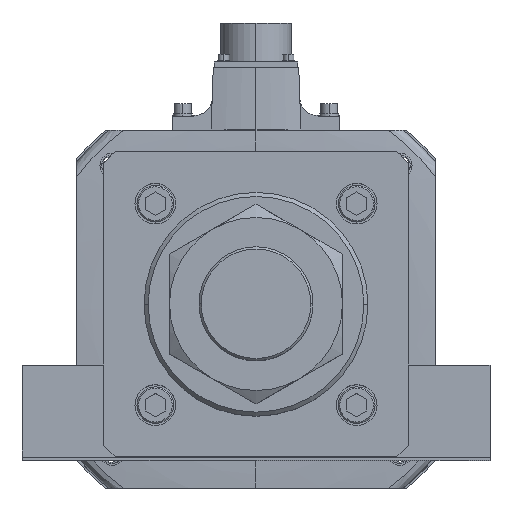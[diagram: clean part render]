
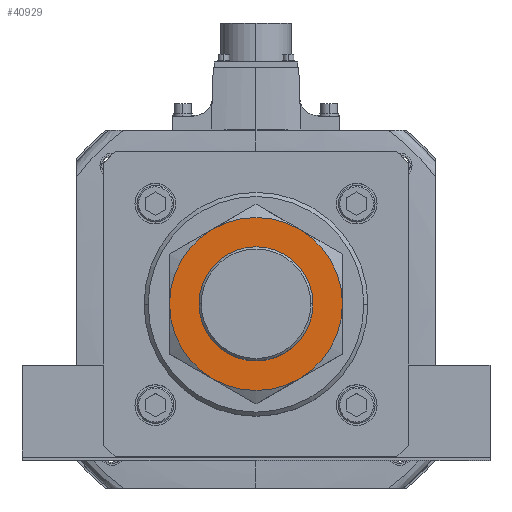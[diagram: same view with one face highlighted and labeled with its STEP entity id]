
A CAD part, top view. The second image highlights one B-rep face of the part: STEP entity #40929.
In plain terms, the highlighted planar face has unit normal (0, 0, 1).
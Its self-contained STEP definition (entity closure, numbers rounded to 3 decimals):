
#2871 = EDGE_CURVE ( 'NONE', #29540, #10998, #50342, .T. ) ;
#3502 = CARTESIAN_POINT ( 'NONE',  ( -28., 0., 34. ) ) ;
#4289 = CIRCLE ( 'NONE', #21163, 28. ) ;
#4372 = CARTESIAN_POINT ( 'NONE',  ( 0., 0., 34. ) ) ;
#4383 = EDGE_LOOP ( 'NONE', ( #21413, #49447 ) ) ;
#4765 = CARTESIAN_POINT ( 'NONE',  ( 0., 0., 34. ) ) ;
#8340 = VERTEX_POINT ( 'NONE', #49782 ) ;
#8923 = AXIS2_PLACEMENT_3D ( 'NONE', #52643, #22620, #30740 ) ;
#9097 = AXIS2_PLACEMENT_3D ( 'NONE', #19487, #37371, #36612 ) ;
#10495 = CIRCLE ( 'NONE', #30447, 28. ) ;
#10594 = CARTESIAN_POINT ( 'NONE',  ( -42.5, 0., 34. ) ) ;
#10998 = VERTEX_POINT ( 'NONE', #41949 ) ;
#11026 = AXIS2_PLACEMENT_3D ( 'NONE', #21760, #26082, #12612 ) ;
#11324 = ORIENTED_EDGE ( 'NONE', *, *, #27970, .F. ) ;
#12058 = AXIS2_PLACEMENT_3D ( 'NONE', #18322, #26952, #39928 ) ;
#12082 = CIRCLE ( 'NONE', #32191, 42.5 ) ;
#12612 = DIRECTION ( 'NONE',  ( 1., 0., 0. ) ) ;
#12634 = CARTESIAN_POINT ( 'NONE',  ( 21.25, 36.806, 34. ) ) ;
#13105 = CIRCLE ( 'NONE', #8923, 42.5 ) ;
#14556 = ORIENTED_EDGE ( 'NONE', *, *, #2871, .F. ) ;
#14880 = DIRECTION ( 'NONE',  ( 0., 0., 1. ) ) ;
#15898 = VERTEX_POINT ( 'NONE', #10594 ) ;
#16560 = VERTEX_POINT ( 'NONE', #18818 ) ;
#16866 = VERTEX_POINT ( 'NONE', #12634 ) ;
#18322 = CARTESIAN_POINT ( 'NONE',  ( 0., 0., 34. ) ) ;
#18818 = CARTESIAN_POINT ( 'NONE',  ( -21.25, -36.806, 34. ) ) ;
#19487 = CARTESIAN_POINT ( 'NONE',  ( 0., 0., 34. ) ) ;
#20329 = EDGE_CURVE ( 'NONE', #16866, #29540, #12082, .T. ) ;
#20660 = CIRCLE ( 'NONE', #49686, 42.5 ) ;
#21163 = AXIS2_PLACEMENT_3D ( 'NONE', #27618, #14880, #23302 ) ;
#21270 = DIRECTION ( 'NONE',  ( 1., 0., 0. ) ) ;
#21413 = ORIENTED_EDGE ( 'NONE', *, *, #33949, .F. ) ;
#21654 = CARTESIAN_POINT ( 'NONE',  ( 42.5, 0., 34. ) ) ;
#21760 = CARTESIAN_POINT ( 'NONE',  ( 0., 0., 34. ) ) ;
#22394 = DIRECTION ( 'NONE',  ( 1., 0., 0. ) ) ;
#22620 = DIRECTION ( 'NONE',  ( 0., 0., -1. ) ) ;
#22973 = CIRCLE ( 'NONE', #9097, 42.5 ) ;
#23302 = DIRECTION ( 'NONE',  ( 1., 0., 0. ) ) ;
#24467 = VERTEX_POINT ( 'NONE', #3502 ) ;
#26082 = DIRECTION ( 'NONE',  ( 0., 0., -1. ) ) ;
#26291 = EDGE_LOOP ( 'NONE', ( #14556, #26861, #11324, #36929, #45188, #34321 ) ) ;
#26861 = ORIENTED_EDGE ( 'NONE', *, *, #20329, .F. ) ;
#26952 = DIRECTION ( 'NONE',  ( 0., 0., 1. ) ) ;
#27618 = CARTESIAN_POINT ( 'NONE',  ( 0., 0., 34. ) ) ;
#27970 = EDGE_CURVE ( 'NONE', #8340, #16866, #22973, .T. ) ;
#29540 = VERTEX_POINT ( 'NONE', #21654 ) ;
#30090 = DIRECTION ( 'NONE',  ( 0., 0., 1. ) ) ;
#30110 = DIRECTION ( 'NONE',  ( 0., 0., -1. ) ) ;
#30300 = CIRCLE ( 'NONE', #11026, 42.5 ) ;
#30447 = AXIS2_PLACEMENT_3D ( 'NONE', #42503, #30090, #21270 ) ;
#30740 = DIRECTION ( 'NONE',  ( 1., 0., 0. ) ) ;
#32108 = EDGE_CURVE ( 'NONE', #36259, #24467, #10495, .T. ) ;
#32191 = AXIS2_PLACEMENT_3D ( 'NONE', #4765, #48099, #22394 ) ;
#33367 = EDGE_CURVE ( 'NONE', #16560, #15898, #13105, .T. ) ;
#33949 = EDGE_CURVE ( 'NONE', #24467, #36259, #4289, .T. ) ;
#34097 = AXIS2_PLACEMENT_3D ( 'NONE', #49536, #49904, #37164 ) ;
#34321 = ORIENTED_EDGE ( 'NONE', *, *, #44026, .F. ) ;
#36259 = VERTEX_POINT ( 'NONE', #41380 ) ;
#36612 = DIRECTION ( 'NONE',  ( 1., 0., 0. ) ) ;
#36929 = ORIENTED_EDGE ( 'NONE', *, *, #37563, .F. ) ;
#37164 = DIRECTION ( 'NONE',  ( 1., 0., 0. ) ) ;
#37371 = DIRECTION ( 'NONE',  ( 0., 0., -1. ) ) ;
#37563 = EDGE_CURVE ( 'NONE', #15898, #8340, #20660, .T. ) ;
#38223 = DIRECTION ( 'NONE',  ( -1., 0., 0. ) ) ;
#39928 = DIRECTION ( 'NONE',  ( 1., 0., 0. ) ) ;
#40551 = FACE_BOUND ( 'NONE', #4383, .T. ) ;
#40929 = ADVANCED_FACE ( 'NONE', ( #41927, #40551 ), #48526, .T. ) ;
#41380 = CARTESIAN_POINT ( 'NONE',  ( 28., 0., 34. ) ) ;
#41927 = FACE_OUTER_BOUND ( 'NONE', #26291, .T. ) ;
#41949 = CARTESIAN_POINT ( 'NONE',  ( 21.25, -36.806, 34. ) ) ;
#42503 = CARTESIAN_POINT ( 'NONE',  ( 0., 0., 34. ) ) ;
#44026 = EDGE_CURVE ( 'NONE', #10998, #16560, #30300, .T. ) ;
#45188 = ORIENTED_EDGE ( 'NONE', *, *, #33367, .F. ) ;
#48099 = DIRECTION ( 'NONE',  ( 0., 0., -1. ) ) ;
#48526 = PLANE ( 'NONE',  #12058 ) ;
#49447 = ORIENTED_EDGE ( 'NONE', *, *, #32108, .F. ) ;
#49536 = CARTESIAN_POINT ( 'NONE',  ( 0., 0., 34. ) ) ;
#49686 = AXIS2_PLACEMENT_3D ( 'NONE', #4372, #30110, #38223 ) ;
#49782 = CARTESIAN_POINT ( 'NONE',  ( -21.25, 36.806, 34. ) ) ;
#49904 = DIRECTION ( 'NONE',  ( 0., 0., -1. ) ) ;
#50342 = CIRCLE ( 'NONE', #34097, 42.5 ) ;
#52643 = CARTESIAN_POINT ( 'NONE',  ( 0., 0., 34. ) ) ;
